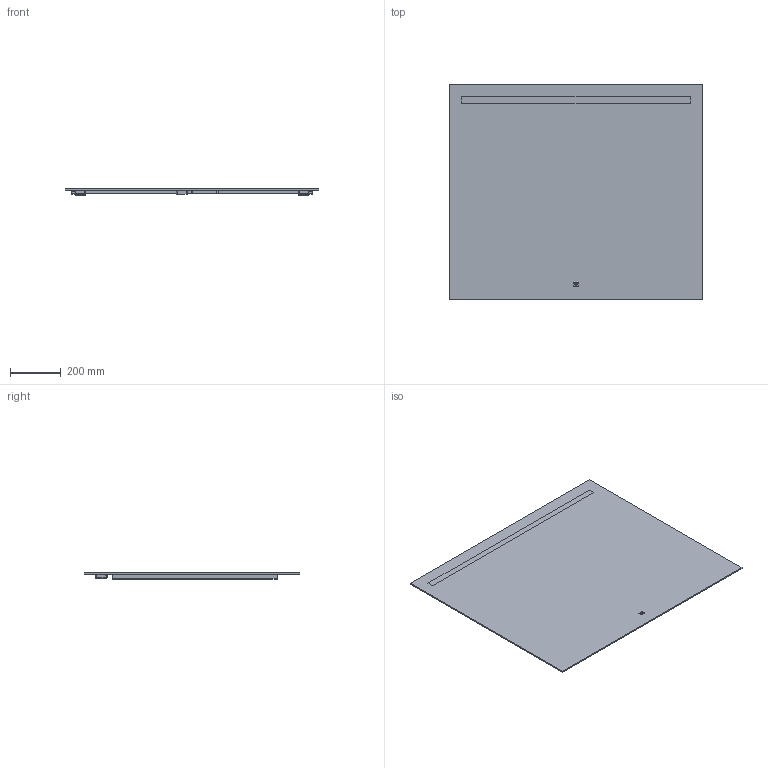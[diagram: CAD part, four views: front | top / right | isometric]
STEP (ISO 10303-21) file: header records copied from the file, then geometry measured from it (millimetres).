
FILE_DESCRIPTION (( 'STEP AP203' ), '1' );
FILE_NAME ('2000659 Kristalspiegel Mono 1000x850 horizontal.STEP', '2021-01-22T09:16:27', ( '' ), ( '' ), 'SwSTEP 2.0', 'SolidWorks 2018', '' );
FILE_SCHEMA (( 'CONFIG_CONTROL_DESIGN' ));
Length unit declared in the file: millimetre
Products named in the file (7): Trafo_15W; Endkappe_mit_Kabelauslass; Spiegel_horizontale_Beleuchtung; Rechteckprofil; Neues_Kunststoffprofil; 2000659 Kristalspiegel Mono 1000x850 horizontal; IP44-Box
Assembly tree (8 placements, depth 2):
  2000659 Kristalspiegel Mono 1000x850 horizontal
    Spiegel_horizontale_Beleuchtung
    Neues_Kunststoffprofil
    Endkappe_mit_Kabelauslass  x2
    Rechteckprofil  x2
    IP44-Box
    Trafo_15W
Bounding box: 1000 x 850 x 25 mm (x, y, z)
Volume: 4933141.3 mm3; surface area: 2254628.2 mm2
Topology: 8 solids, 8 shells, 312 faces, 824 edges, 520 vertices
Faces by surface type: plane 146, cylinder 120, torus 24, bspline 20, sphere 2
Entity records: 7101 total; most frequent: CARTESIAN_POINT 1438, DIRECTION 1031, ORIENTED_EDGE 1028, EDGE_CURVE 514, AXIS2_PLACEMENT_3D 355, VERTEX_POINT 342, LINE 321, VECTOR 321
